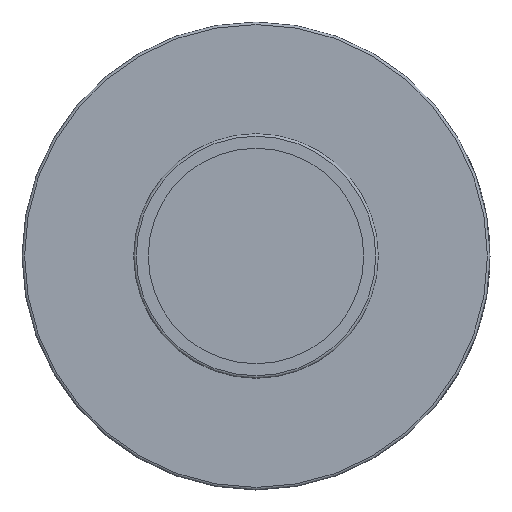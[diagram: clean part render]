
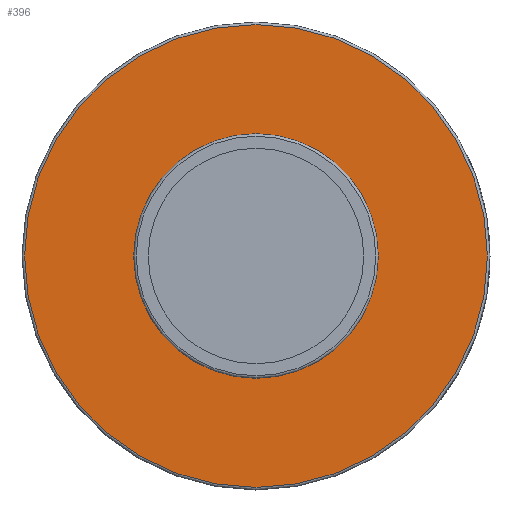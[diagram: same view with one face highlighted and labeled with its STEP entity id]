
A CAD part, left-side view. The second image highlights one B-rep face of the part: STEP entity #396.
In plain terms, the highlighted planar face has unit normal (-1, 0, 0).
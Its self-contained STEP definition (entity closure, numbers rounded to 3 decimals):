
#396 = ADVANCED_FACE( '', ( #930, #931 ), #932, .T. );
#930 = FACE_OUTER_BOUND( '', #2068, .T. );
#931 = FACE_BOUND( '', #2069, .T. );
#932 = PLANE( '', #2070 );
#2068 = EDGE_LOOP( '', ( #3822 ) );
#2069 = EDGE_LOOP( '', ( #3823 ) );
#2070 = AXIS2_PLACEMENT_3D( '', #3824, #3825, #3826 );
#3822 = ORIENTED_EDGE( '', *, *, #5271, .T. );
#3823 = ORIENTED_EDGE( '', *, *, #5370, .F. );
#3824 = CARTESIAN_POINT( '', ( 12.243, 0., 45.53 ) );
#3825 = DIRECTION( '', ( -1., 0., 0. ) );
#3826 = DIRECTION( '', ( 0., 0., 1. ) );
#5271 = EDGE_CURVE( '', #6202, #6202, #6203, .T. );
#5370 = EDGE_CURVE( '', #6360, #6360, #6361, .T. );
#6202 = VERTEX_POINT( '', #7926 );
#6203 = CIRCLE( '', #7927, 45.53 );
#6360 = VERTEX_POINT( '', #8250 );
#6361 = CIRCLE( '', #8251, 24.067 );
#7926 = CARTESIAN_POINT( '', ( 12.243, 0., 45.53 ) );
#7927 = AXIS2_PLACEMENT_3D( '', #9538, #9539, #9540 );
#8250 = CARTESIAN_POINT( '', ( 12.243, 0., 24.067 ) );
#8251 = AXIS2_PLACEMENT_3D( '', #9544, #9545, #9546 );
#9538 = CARTESIAN_POINT( '', ( 12.243, 0., 0. ) );
#9539 = DIRECTION( '', ( -1., 0., 0. ) );
#9540 = DIRECTION( '', ( 0., 0., 1. ) );
#9544 = CARTESIAN_POINT( '', ( 12.243, 0., 0. ) );
#9545 = DIRECTION( '', ( -1., 0., 0. ) );
#9546 = DIRECTION( '', ( 0., 0., 1. ) );
